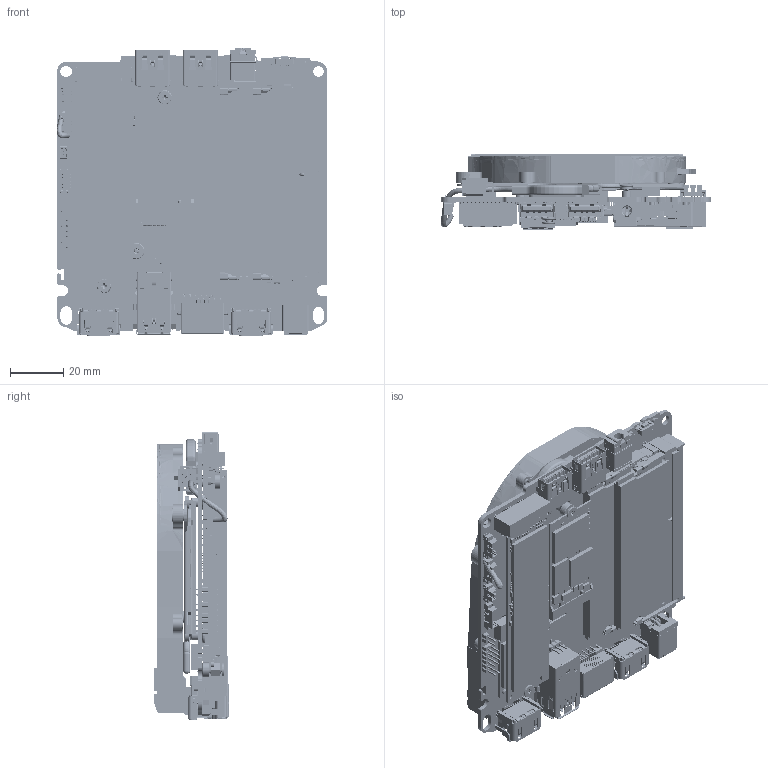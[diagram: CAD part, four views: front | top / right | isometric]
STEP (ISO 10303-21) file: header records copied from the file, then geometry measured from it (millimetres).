
FILE_DESCRIPTION((''),'2;1');
FILE_NAME('AN_ME_SHORT-3D-20221109_ASM','2023-02-24T09:24:41',('djgrygi'),('INTEL'),'CREO PARAMETRIC BY PTC INC, 2022284','CREO PARAMETRIC BY PTC INC, 2022284','');
FILE_SCHEMA(('CONFIG_CONTROL_DESIGN'));
Products named in the file (104): WS_MB_ME_NEW_1_1; A_PWR_2X2P_118_HD_JOINT_1; A_DC_PWR_JACK_2P_5HD_RA_SIN_1; A_HDMI_19P_4H_RA_FOX_1_1; A_HDMI_19P_4H_RA_FOX_1_2; A_HDMI_19P_4H_RA_FOX_1_3; A_HDMI_19P_4H_RA_FOX_1_4; A_HDMI_19P_4H_RA_FOX_1_5; A_HDMI_19P_4H_RA_FOX_1_6; A_HDMI_19P_4H_RA_FOX_1_7; A_HDMI_19P_4H_RA_FOX_1_8; A_HDMI_19P_4H_RA_FOX_1_9; A_HDMI_19P_4H_RA_FOX_1_10; A_HDMI_19P_4H_RA_FOX_1_11; A_HDMI_19P_4H_RA_FOX_1_12; A_HDMI_19P_4H_RA_FOX_1_13; A_HDMI_19P_4H_RA_FOX_1_14; A_HDMI_19P_4H_RA_FOX_1_15; A_HDMI_19P_4H_RA_FOX_1_16; A_HDMI_19P_4H_RA_FOX_1_17; A_HDMI_19P_4H_RA_FOX_1_18; A_HDMI_19P_4H_RA_FOX_1_19; A_HDMI_19P_4H_RA_FOX_1_20; A_HDMI_19P_4H_RA_FOX_1_ASM; A_USB_24P_12H_RA_LOTE_WS_1; A_USBX2_13P_4HD_RA_LOTES_1; A_USB_9P_4HLD_RA_TCONN_1; A_MINI_PCI_67P_20_4H_LOTES_1; TN_SSD_M2_1; MX_MINI_PCI_67P_20_4H_H165_1; TN_WLAN_CARD_FOXCON_KEY_A_E_1; SMT_NUT_CT244B185D169_1; TN_SCREW_SCREW_M3XL3_3_3_1; TN_SCREW_M2XL3_1; A_SMT_NUT_CT264B180D150_YONG_1; A_WTOB_4P_49_2HOLD_XIN_1; A_HD_1X3P_79_PINREX_1; A_WTOB_2P_49_2H_RA_1; HD_1X2P_79_PINR_LF5_1; T_A_DDR4_260P_20_4H_FOXCN_1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
Assembly tree (281 placements, depth 7):
  AN_ME_SHORT-3D-20221109_ASM
    00_WS_ALL_ASM_CHECK_ASM_2_ASM
      WS_ME_OUTLINE_ASM_ASM_1_ASM
        WS_MB_ASM_ASM_1_ASM
          WS_MB_ASSY_ASM_1_ASM
            WS_MB_ME_NEW_1_1
            A_PWR_2X2P_118_HD_JOINT_1
            A_DC_PWR_JACK_2P_5HD_RA_SIN_1
            A_HDMI_19P_4H_RA_FOX_1_ASM  x2
              A_HDMI_19P_4H_RA_FOX_1_1
              A_HDMI_19P_4H_RA_FOX_1_2
              A_HDMI_19P_4H_RA_FOX_1_3
              A_HDMI_19P_4H_RA_FOX_1_4
              A_HDMI_19P_4H_RA_FOX_1_5
              A_HDMI_19P_4H_RA_FOX_1_6
              A_HDMI_19P_4H_RA_FOX_1_7
              A_HDMI_19P_4H_RA_FOX_1_8
              A_HDMI_19P_4H_RA_FOX_1_9
              A_HDMI_19P_4H_RA_FOX_1_10
              A_HDMI_19P_4H_RA_FOX_1_11
              A_HDMI_19P_4H_RA_FOX_1_12
              A_HDMI_19P_4H_RA_FOX_1_13
              A_HDMI_19P_4H_RA_FOX_1_14
              A_HDMI_19P_4H_RA_FOX_1_15
              A_HDMI_19P_4H_RA_FOX_1_16
              A_HDMI_19P_4H_RA_FOX_1_17
              A_HDMI_19P_4H_RA_FOX_1_18
              A_HDMI_19P_4H_RA_FOX_1_19
              A_HDMI_19P_4H_RA_FOX_1_20
            A_USB_24P_12H_RA_LOTE_WS_1  x2
            A_USBX2_13P_4HD_RA_LOTES_1
            A_USB_9P_4HLD_RA_TCONN_1  x2
            A_MINI_PCI_67P_20_4H_LOTES_1
            TN_SSD_M2_1
            MX_MINI_PCI_67P_20_4H_H165_1
            TN_WLAN_CARD_FOXCON_KEY_A_E_1
            SMT_NUT_CT244B185D169_1
            TN_SCREW_SCREW_M3XL3_3_3_1
            TN_SCREW_M2XL3_1  x2
            A_SMT_NUT_CT264B180D150_YONG_1  x4
            A_WTOB_4P_49_2HOLD_XIN_1  x3
            A_HD_1X3P_79_PINREX_1
            A_WTOB_2P_49_2H_RA_1
            HD_1X2P_79_PINR_LF5_1
            T_A_DDR4_260P_20_4H_FOXCN_1
            CARD_DDR4_SODIMM_260P_1  x2
            DDR4_260P_20_4HOLD_FOXCONN_1
            FPC_CON_16P_20_4HD_ENTERY_1
            A_LAN_JACK_12P_2HD_SPEE_1
            A_NGFF_67P_20_4HLD_FC_1
            SMT_NUT_CT177B67D51_1
            TRANS_HILISIN_BXRTASDIS024_1
            TN_TBT_GASKET_1  x2
            TN_RTC_ADHESIVE_1
            TN_BATTERY_REF_1
            MX_WTOB_5P_49_2HOLD_ENTERY_1
            HH_HD_2X6P_79_K10_XINYA_1
            HH_TACT_SW_4P_4H_276X138_1_ASM
              HH_TACT_SW_4P_4H_276X138_1_1
              HH_TACT_SW_4P_4H_276X138_1_2
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Bounding box: 101.85 x 28.86 x 108.34 mm (x, y, z)
Volume: 101972.3 mm3; surface area: 241164.5 mm2
Topology: 289 solids, 432 shells, 38069 faces, 101125 edges, 64255 vertices
Faces by surface type: plane 26133, cylinder 9970, torus 835, bspline 520, cone 395, sphere 173, extrusion 37, revolution 6
Entity records: 802782 total; most frequent: CARTESIAN_POINT 177750, ORIENTED_EDGE 132631, DIRECTION 126281, EDGE_CURVE 66320, VECTOR 49137, LINE 49104, VERTEX_POINT 43230, AXIS2_PLACEMENT_3D 38569
